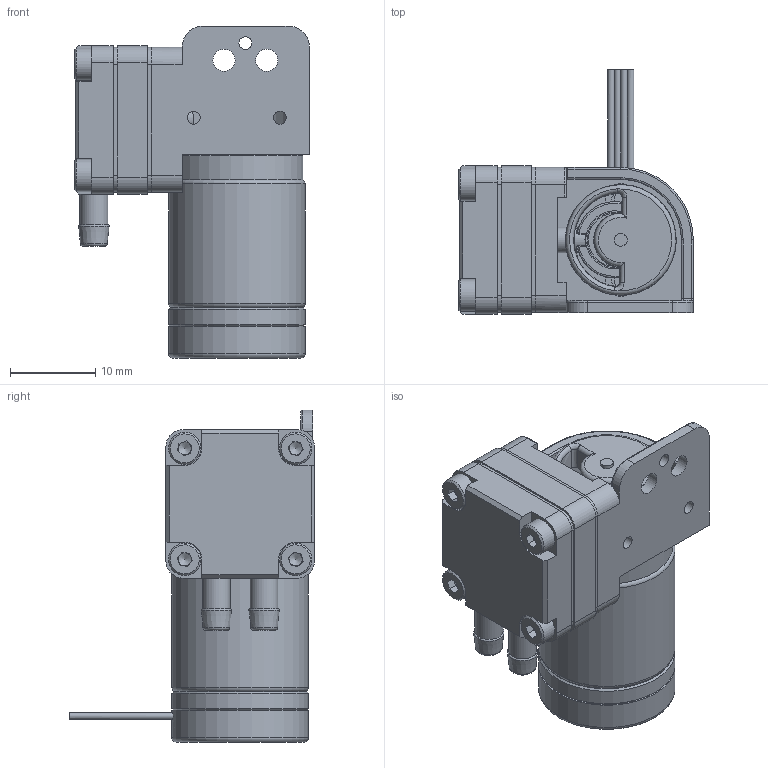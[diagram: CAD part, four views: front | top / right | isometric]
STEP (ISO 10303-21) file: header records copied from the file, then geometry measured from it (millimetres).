
FILE_DESCRIPTION (( 'STEP AP214' ), '1' );
FILE_NAME ('D250BLX REV 6.STEP', '2022-01-24T15:06:38', ( '' ), ( '' ), 'SwSTEP 2.0', 'SolidWorks 2021', '' );
FILE_SCHEMA (( 'AUTOMOTIVE_DESIGN' ));
Length unit declared in the file: millimetre
Products named in the file (1): D250BLX REV 6
Bounding box: 27.5 x 28.7 x 38.9 mm (x, y, z)
Surface area: 5862.3 mm2 (no closed solid volume)
Topology: 0 solids, 21 shells, 251 faces, 743 edges, 501 vertices
Faces by surface type: plane 127, cylinder 78, torus 22, cone 19, bspline 5
Full cylindrical faces by diameter (mm): 1.5 x4, 1.6 x4, 2 x2, 2.6 x2, 3 x1, 3.25 x2, 3.8 x4, 6.209 x1, 14.2 x1, 15.5 x1, 16 x3
Entity records: 11121 total; most frequent: CARTESIAN_POINT 1793, DIRECTION 1415, ORIENTED_EDGE 1158, EDGE_CURVE 672, AXIS2_PLACEMENT_3D 539, VERTEX_POINT 483, EDGE_LOOP 374, LINE 337
